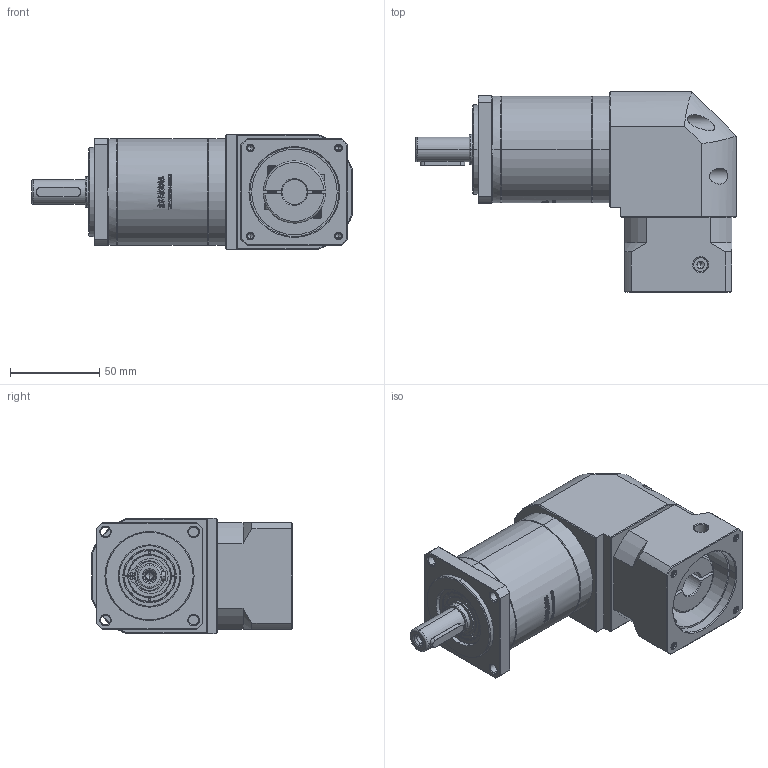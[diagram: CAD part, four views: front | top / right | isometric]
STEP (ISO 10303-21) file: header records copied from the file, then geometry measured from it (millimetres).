
FILE_DESCRIPTION (( 'STEP AP214' ), '1' );
FILE_NAME ('ZFR60-D14-L2-14-50-70-M4.STEP', '2022-04-20T08:59:52', ( '' ), ( 'Microsoft' ), 'SwSTEP 2.0', 'SolidWorks 2016', '' );
FILE_SCHEMA (( 'AUTOMOTIVE_DESIGN' ));
Length unit declared in the file: millimetre
Products named in the file (1): ZFR60-D14-L2-14-50-70-M4
Bounding box: 180 x 112.7 x 65 mm (x, y, z)
Volume: 586305.6 mm3; surface area: 81715.9 mm2
Topology: 5 solids, 6 shells, 2684 faces, 7292 edges, 4745 vertices
Faces by surface type: plane 1397, bspline 591, cylinder 394, cone 288, torus 14
Entity records: 146868 total; most frequent: CARTESIAN_POINT 55326, ORIENTED_EDGE 14540, DIRECTION 10408, EDGE_CURVE 7270, VERTEX_POINT 4745, VECTOR 4376, LINE 4376, AXIS2_PLACEMENT_3D 3016
